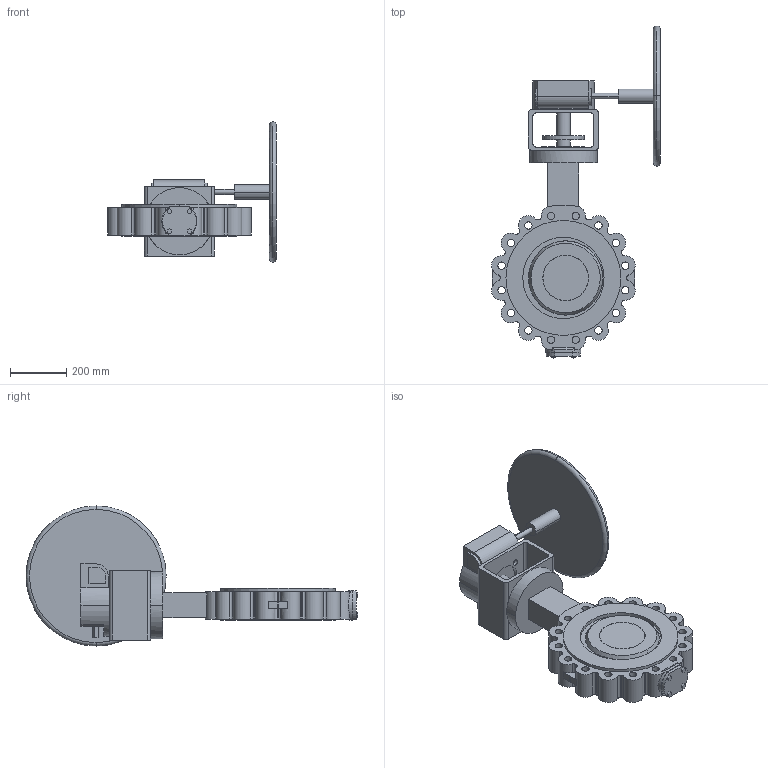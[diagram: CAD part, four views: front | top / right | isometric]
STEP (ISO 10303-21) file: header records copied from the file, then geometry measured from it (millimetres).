
FILE_DESCRIPTION( ( '' ), '1' );
FILE_NAME( 'F:/DE-SHS/TB/OR/04-Sonstiges/daten/Excel/mneugeba/018_ZETRIX-PN40_Getriebe-Rotork/c000006456.stp', '2016-09-19T06:43:00', ( '' ), ( '' ), ' ', ' ', ' ' );
FILE_SCHEMA( ( 'CONFIG_CONTROL_DESIGN' ) );
Length unit declared in the file: millimetre
Products named in the file (2): 1; 2
Bounding box: 602.11 x 1184.4 x 500 mm (x, y, z)
Volume: 32695920.6 mm3; surface area: 2018671.9 mm2
Topology: 2 solids, 2 shells, 365 faces, 971 edges, 647 vertices
Faces by surface type: cylinder 203, plane 150, sphere 4, cone 4, torus 4
Entity records: 12610 total; most frequent: CARTESIAN_POINT 2938, DIRECTION 2126, ORIENTED_EDGE 1942, EDGE_CURVE 971, AXIS2_PLACEMENT_3D 821, VERTEX_POINT 647, LINE 484, VECTOR 484
